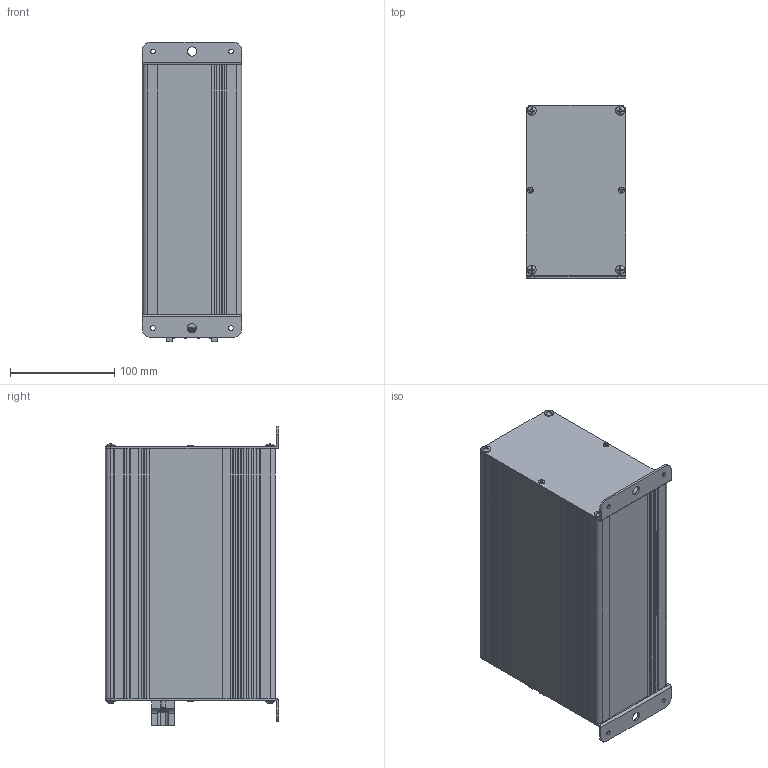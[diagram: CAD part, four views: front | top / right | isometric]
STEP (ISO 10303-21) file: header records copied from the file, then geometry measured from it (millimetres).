
FILE_DESCRIPTION(/* description */ ('','CAx-IF Rec.Pracs.---Representation and Presentation of Product Manufacturing Information (PMI)---4.0---2014-10-13'),/* implementation_level */ '2;1');
FILE_NAME(/* name */ 'H:\04_배터리_전기종\저부하용 배터리 케이스_3D\LB-25V45AH-TB\LB-25V45AH-TB.stp',/* time_stamp */ '2022-12-06T09:22:14+09:00',/* author */ ('jjang'),/* organization */ (''),/* preprocessor_version */ 'ST-DEVELOPER v18.1',/* originating_system */ 'Autodesk Inventor 2021',/* authorisation */ '');
FILE_SCHEMA (('AP242_MANAGED_MODEL_BASED_3D_ENGINEERING_MIM_LF { 1 0 10303 442 1 1 4 }'));
Length unit declared in the file: inch
Products named in the file (1): LB-25V45AH_20221205
Bounding box: 95.62 x 166.42 x 288.29 mm (x, y, z)
Volume: 425572.9 mm3; surface area: 354804.9 mm2
Topology: 1 solids, 1 shells, 912 faces, 2725 edges, 1817 vertices
Faces by surface type: plane 561, cylinder 304, torus 27, cone 12, bspline 8
Full cylindrical faces by diameter (mm): 3.2 x4, 3.4 x4, 3.8 x8, 4 x10, 4.4 x4, 4.5 x8, 5.7 x4, 7.084 x5, 7.8 x5, 8.8 x8, 9 x2
Entity records: 33141 total; most frequent: CARTESIAN_POINT 7516, ORIENTED_EDGE 5450, DIRECTION 5270, EDGE_CURVE 2725, AXIS2_PLACEMENT_3D 1847, VERTEX_POINT 1817, LINE 1576, VECTOR 1576
